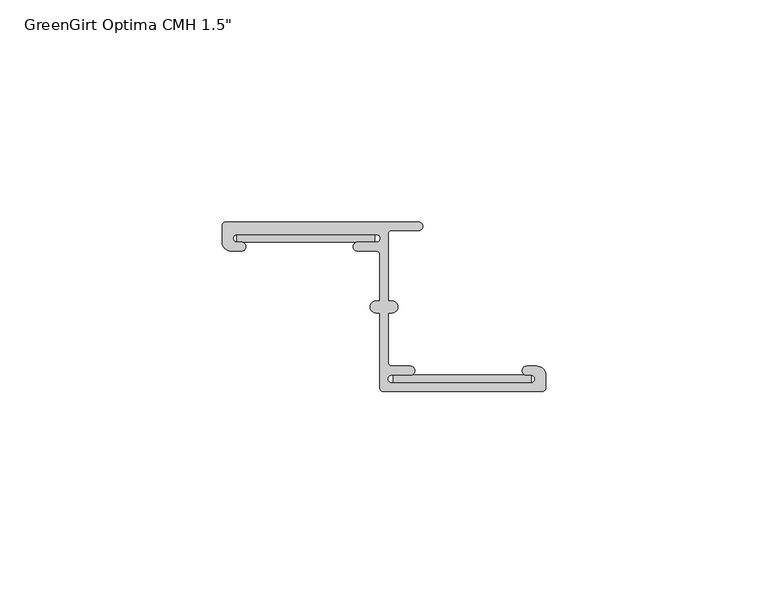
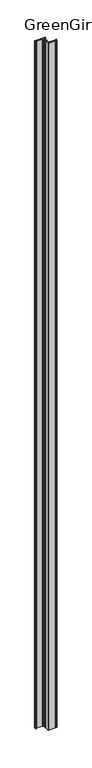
"""IFC4 building model written with IfcOpenShell, lengths in millimetres: fastener geometry."""

from ifc_helpers import new_model, si_unit, frame, origin, origin_with_axes, place, context, project, spatial, polyline, circle_curve, outline, extrude, source, transform, mapped, element, save
from ifc_brep_helpers import plane_surface, cylinder_surface, revolved_surface, advanced_brep


def fastener_47d68e06(model_context):
    return source(origin(), model_context, "Body", "SolidModel", [
        advanced_brep(
        [(54.102, -2.794, 3048.0), (85.471, -2.794, 3048.0), (85.471, -4.5212, 3048.0), (81.28, -4.5212, 3048.0), (81.28, -6.5532, 3048.0), (85.471, -6.5532, 3048.0), (86.233, -7.3152, 3048.0), (86.233, -17.7601563, 3048.0), (85.3845567, -17.7601563, 3048.0), (85.3845567, -20.4288947, 3048.0), (86.233, -20.4288947, 3048.0), (86.233, -37.3379766, 3048.0), (86.995, -38.0999766, 3048.0), (122.8513242, -38.1, 3048.0), (123.571, -37.3379766, 3048.0), (123.571, -34.4677766, 3048.0), (121.539, -32.4357766, 3048.0), (119.253, -32.4357766, 3048.0), (119.253, -34.4677766, 3048.0), (120.269, -34.4677766, 3048.0), (120.269, -36.1949766, 3048.0), (88.9, -36.1949766, 3048.0), (88.9, -34.4677766, 3048.0), (93.091, -34.4677766, 3048.0), (93.091, -32.4357766, 3048.0), (88.9, -32.4357766, 3048.0), (88.138, -31.6737766, 3048.0), (88.138, -20.4279799, 3048.0), (88.9869007, -20.4279799, 3048.0), (88.9869007, -17.7601563, 3048.0), (88.138, -17.7601563, 3048.0), (88.138, -2.667, 3048.0), (88.9, -1.905, 3048.0), (94.996, -1.905, 3048.0), (94.996, 0.0, 3048.0), (51.562, 0.0, 3048.0), (50.8, -0.762, 3048.0), (50.8, -4.5212, 3048.0), (52.832, -6.5532, 3048.0), (55.118, -6.5532, 3048.0), (55.118, -4.5212, 3048.0), (54.102, -4.5212, 3048.0), (54.102, -2.794, 0.0), (54.102, -4.5212, 0.0), (55.118, -4.5212, 0.0), (55.118, -6.5532, 0.0), (52.832, -6.5532, 0.0), (50.8, -4.5212, 0.0), (50.8, -0.762, 0.0), (51.562, 0.0, 0.0), (94.996, 0.0, 0.0), (94.996, -1.905, 0.0), (88.9, -1.905, 0.0), (88.138, -2.667, 0.0), (88.138, -17.7601563, 0.0), (88.9869007, -17.7601563, 0.0), (88.9869007, -20.4279799, 0.0), (88.138, -20.4279799, 0.0), (88.138, -31.6737766, 0.0), (88.9, -32.4357766, 0.0), (93.091, -32.4357766, 0.0), (93.091, -34.4677766, 0.0), (88.9, -34.4677766, 0.0), (88.9, -36.1949766, 0.0), (120.269, -36.1949766, 0.0), (120.269, -34.4677766, 0.0), (119.253, -34.4677766, 0.0), (119.253, -32.4357766, 0.0), (121.539, -32.4357766, 0.0), (123.571, -34.4677766, 0.0), (123.571, -37.3379766, 0.0), (122.809, -38.0999766, 0.0), (86.9676774, -38.1, 0.0), (86.233, -37.3379766, 0.0), (86.233, -20.4288947, 0.0), (85.3845567, -20.4288947, 0.0), (85.3845567, -17.7601563, 0.0), (86.233, -17.7601563, 0.0), (86.233, -7.3152, 0.0), (85.471, -6.5532, 0.0), (81.28, -6.5532, 0.0), (81.28, -4.5212, 0.0), (85.471, -4.5212, 0.0), (85.471, -2.794, 0.0)],
        [
            (0, 1),
            (1, 2, circle_curve(frame((85.471, -3.6576, 3048.0), z_axis=(0.0, 0.0, -1.0), x_axis=(1.0, 0.0, 0.0)), 0.8636)),
            (2, 3),
            (3, 4, circle_curve(frame((81.28, -5.5372, 3048.0), z_axis=(0.0, 0.0, 1.0), x_axis=(1.0, 0.0, 0.0)), 1.016)),
            (4, 5),
            (5, 6, circle_curve(frame((85.471, -7.3152, 3048.0), z_axis=(0.0, 0.0, -1.0), x_axis=(1.0, 0.0, 0.0)), 0.762)),
            (6, 7),
            (7, 8),
            (8, 9, circle_curve(frame((85.3845567, -19.0945255, 3048.0), z_axis=(0.0, 0.0, 1.0), x_axis=(1.0, 0.0, 0.0)), 1.3343692)),
            (9, 10),
            (10, 11),
            (11, 12, circle_curve(frame((86.995, -37.3379766, 3048.0), z_axis=(0.0, 0.0, 1.0), x_axis=(1.0, 0.0, 0.0)), 0.762)),
            (12, 13),
            (13, 14, circle_curve(frame((122.809, -37.3379766, 3048.0), z_axis=(0.0, 0.0, 1.0), x_axis=(1.0, 0.0, 0.0)), 0.762)),
            (14, 15),
            (15, 16, circle_curve(frame((121.539, -34.4677766, 3048.0), z_axis=(0.0, 0.0, 1.0), x_axis=(1.0, 0.0, 0.0)), 2.032)),
            (16, 17),
            (17, 18, circle_curve(frame((119.253, -33.4517766, 3048.0), z_axis=(0.0, 0.0, 1.0), x_axis=(1.0, 0.0, 0.0)), 1.016)),
            (18, 19),
            (19, 20, circle_curve(frame((120.269, -35.3313766, 3048.0), z_axis=(0.0, 0.0, -1.0), x_axis=(1.0, 0.0, 0.0)), 0.8636)),
            (20, 21),
            (21, 22, circle_curve(frame((88.9, -35.3313766, 3048.0), z_axis=(0.0, 0.0, -1.0), x_axis=(1.0, 0.0, 0.0)), 0.8636)),
            (22, 23),
            (23, 24, circle_curve(frame((93.091, -33.4517766, 3048.0), z_axis=(0.0, 0.0, 1.0), x_axis=(1.0, 0.0, 0.0)), 1.016)),
            (24, 25),
            (25, 26, circle_curve(frame((88.9, -31.6737766, 3048.0), z_axis=(0.0, 0.0, -1.0), x_axis=(1.0, 0.0, 0.0)), 0.762)),
            (26, 27),
            (27, 28),
            (28, 29, circle_curve(frame((88.9869007, -19.0940681, 3048.0), z_axis=(0.0, 0.0, 1.0), x_axis=(1.0, 0.0, 0.0)), 1.3339118)),
            (29, 30),
            (30, 31),
            (31, 32, circle_curve(frame((88.9, -2.667, 3048.0), z_axis=(0.0, 0.0, -1.0), x_axis=(1.0, 0.0, 0.0)), 0.762)),
            (32, 33),
            (33, 34, circle_curve(frame((94.996, -0.9525, 3048.0), z_axis=(0.0, 0.0, 1.0), x_axis=(1.0, 0.0, 0.0)), 0.9525)),
            (34, 35),
            (35, 36, circle_curve(frame((51.562, -0.762, 3048.0), z_axis=(0.0, 0.0, 1.0), x_axis=(1.0, 0.0, 0.0)), 0.762)),
            (36, 37),
            (37, 38, circle_curve(frame((52.832, -4.5212, 3048.0), z_axis=(0.0, 0.0, 1.0), x_axis=(1.0, 0.0, 0.0)), 2.032)),
            (38, 39),
            (39, 40, circle_curve(frame((55.118, -5.5372, 3048.0), z_axis=(0.0, 0.0, 1.0), x_axis=(1.0, 0.0, 0.0)), 1.016)),
            (40, 41),
            (41, 0, circle_curve(frame((54.102, -3.6576, 3048.0), z_axis=(0.0, 0.0, -1.0), x_axis=(1.0, 0.0, 0.0)), 0.8636)),
            (42, 43, circle_curve(frame((54.102, -3.6576, 0.0), z_axis=(0.0, 0.0, 1.0), x_axis=(1.0, 0.0, 0.0)), 0.8636)),
            (43, 44),
            (44, 45, circle_curve(frame((55.118, -5.5372, 0.0), z_axis=(0.0, 0.0, -1.0), x_axis=(1.0, 0.0, 0.0)), 1.016)),
            (45, 46),
            (46, 47, circle_curve(frame((52.832, -4.5212, 0.0), z_axis=(0.0, 0.0, -1.0), x_axis=(1.0, 0.0, 0.0)), 2.032)),
            (47, 48),
            (48, 49, circle_curve(frame((51.562, -0.762, 0.0), z_axis=(0.0, 0.0, -1.0), x_axis=(1.0, 0.0, 0.0)), 0.762)),
            (49, 50),
            (50, 51, circle_curve(frame((94.996, -0.9525, 0.0), z_axis=(0.0, 0.0, -1.0), x_axis=(1.0, 0.0, 0.0)), 0.9525)),
            (51, 52),
            (52, 53, circle_curve(frame((88.9, -2.667, 0.0), z_axis=(0.0, 0.0, 1.0), x_axis=(1.0, 0.0, 0.0)), 0.762)),
            (53, 54),
            (54, 55),
            (55, 56, circle_curve(frame((88.9869007, -19.0940681, 0.0), z_axis=(0.0, 0.0, -1.0), x_axis=(1.0, 0.0, 0.0)), 1.3339118)),
            (56, 57),
            (57, 58),
            (58, 59, circle_curve(frame((88.9, -31.6737766, 0.0), z_axis=(0.0, 0.0, 1.0), x_axis=(1.0, 0.0, 0.0)), 0.762)),
            (59, 60),
            (60, 61, circle_curve(frame((93.091, -33.4517766, 0.0), z_axis=(0.0, 0.0, -1.0), x_axis=(1.0, 0.0, 0.0)), 1.016)),
            (61, 62),
            (62, 63, circle_curve(frame((88.9, -35.3313766, 0.0), z_axis=(0.0, 0.0, 1.0), x_axis=(1.0, 0.0, 0.0)), 0.8636)),
            (63, 64),
            (64, 65, circle_curve(frame((120.269, -35.3313766, 0.0), z_axis=(0.0, 0.0, 1.0), x_axis=(1.0, 0.0, 0.0)), 0.8636)),
            (65, 66),
            (66, 67, circle_curve(frame((119.253, -33.4517766, 0.0), z_axis=(0.0, 0.0, -1.0), x_axis=(1.0, 0.0, 0.0)), 1.016)),
            (67, 68),
            (68, 69, circle_curve(frame((121.539, -34.4677766, 0.0), z_axis=(0.0, 0.0, -1.0), x_axis=(1.0, 0.0, 0.0)), 2.032)),
            (69, 70),
            (70, 71, circle_curve(frame((122.809, -37.3379766, 0.0), z_axis=(0.0, 0.0, -1.0), x_axis=(1.0, 0.0, 0.0)), 0.762)),
            (71, 72),
            (72, 73, circle_curve(frame((86.995, -37.3379766, 0.0), z_axis=(0.0, 0.0, -1.0), x_axis=(1.0, 0.0, 0.0)), 0.762)),
            (73, 74),
            (74, 75),
            (75, 76, circle_curve(frame((85.3845567, -19.0945255, 0.0), z_axis=(0.0, 0.0, -1.0), x_axis=(1.0, 0.0, 0.0)), 1.3343692)),
            (76, 77),
            (77, 78),
            (78, 79, circle_curve(frame((85.471, -7.3152, 0.0), z_axis=(0.0, 0.0, 1.0), x_axis=(1.0, 0.0, 0.0)), 0.762)),
            (79, 80),
            (80, 81, circle_curve(frame((81.28, -5.5372, 0.0), z_axis=(0.0, 0.0, -1.0), x_axis=(1.0, 0.0, 0.0)), 1.016)),
            (81, 82),
            (82, 83, circle_curve(frame((85.471, -3.6576, 0.0), z_axis=(0.0, 0.0, 1.0), x_axis=(1.0, 0.0, 0.0)), 0.8636)),
            (83, 42),
            (0, 42),
            (83, 1),
            (82, 2),
            (81, 3),
            (80, 4),
            (79, 5),
            (78, 6),
            (77, 7),
            (76, 8),
            (75, 9),
            (74, 10),
            (73, 11),
            (72, 12),
            (71, 13),
            (70, 14),
            (69, 15),
            (68, 16),
            (67, 17),
            (66, 18),
            (65, 19),
            (64, 20),
            (63, 21),
            (62, 22),
            (61, 23),
            (60, 24),
            (59, 25),
            (58, 26),
            (57, 27),
            (56, 28),
            (55, 29),
            (54, 30),
            (53, 31),
            (52, 32),
            (51, 33),
            (50, 34),
            (49, 35),
            (48, 36),
            (47, 37),
            (46, 38),
            (45, 39),
            (44, 40),
            (43, 41),
        ],
        [
            plane_surface(frame((85.471, -2.794, 3048.0), z_axis=(0.0, 0.0, 1.0), x_axis=(1.0, 0.0, 0.0))),
            plane_surface(frame((85.471, -2.794, 0.0), z_axis=(0.0, 0.0, -1.0), x_axis=(-1.0, 0.0, 0.0))),
            plane_surface(frame((54.102, -2.794, 3048.0), z_axis=(0.0, -1.0, 0.0), x_axis=(0.0, 0.0, -1.0))),
            revolved_surface(polyline([(86.33460000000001, -3.6576, 0.0), (86.33460000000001, -3.6576, 3048.0)]), (85.471, -3.6576, 0.0), (0.0, 0.0, -1.0)),
            plane_surface(frame((85.471, -4.5212, 3048.0), z_axis=(0.0, 1.0, 0.0), x_axis=(0.0, 0.0, -1.0))),
            cylinder_surface(frame((81.28, -5.5372, 0.0), z_axis=(0.0, 0.0, 1.0), x_axis=(1.0, 0.0, 0.0)), 1.016),
            plane_surface(frame((81.28, -6.5532, 3048.0), z_axis=(0.0, -1.0, 0.0), x_axis=(0.0, 0.0, -1.0))),
            revolved_surface(polyline([(86.233, -7.3152, 0.0), (86.233, -7.3152, 3048.0)]), (85.471, -7.3152, 0.0), (0.0, 0.0, -1.0)),
            plane_surface(frame((86.233, -7.3152, 3048.0), z_axis=(-1.0, 0.0, 0.0), x_axis=(0.0, 0.0, -1.0))),
            plane_surface(frame((86.233, -17.7601563, 3048.0), z_axis=(0.0, 1.0, 0.0), x_axis=(0.0, 0.0, -1.0))),
            cylinder_surface(frame((85.3845567, -19.0945255, 0.0), z_axis=(0.0, 0.0, 1.0), x_axis=(1.0, 0.0, 0.0)), 1.3343692),
            plane_surface(frame((85.3845567, -20.4288947, 3048.0), z_axis=(0.0, -1.0, 0.0), x_axis=(0.0, 0.0, -1.0))),
            plane_surface(frame((86.233, -20.4288947, 3048.0), z_axis=(-1.0, 0.0, 0.0), x_axis=(0.0, 0.0, -1.0))),
            cylinder_surface(frame((86.995, -37.3379766, 0.0), z_axis=(0.0, 0.0, 1.0), x_axis=(1.0, 0.0, 0.0)), 0.762),
            plane_surface(frame((86.9676774, -38.1, 3048.0), z_axis=(0.0, -1.0, 0.0), x_axis=(0.0, 0.0, -1.0))),
            cylinder_surface(frame((122.809, -37.3379766, 0.0), z_axis=(0.0, 0.0, 1.0), x_axis=(1.0, 0.0, 0.0)), 0.762),
            plane_surface(frame((123.571, -37.3379766, 3048.0), z_axis=(1.0, 1.3794275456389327e-12, 0.0), x_axis=(0.0, 0.0, -1.0))),
            cylinder_surface(frame((121.539, -34.4677766, 0.0), z_axis=(0.0, 0.0, 1.0), x_axis=(1.0, 0.0, 0.0)), 2.032),
            plane_surface(frame((121.539, -32.4357766, 3048.0), z_axis=(0.0, 1.0, 0.0), x_axis=(0.0, 0.0, -1.0))),
            cylinder_surface(frame((119.253, -33.4517766, 0.0), z_axis=(0.0, 0.0, 1.0), x_axis=(1.0, 0.0, 0.0)), 1.016),
            plane_surface(frame((119.253, -34.4677766, 3048.0), z_axis=(0.0, -1.0, 0.0), x_axis=(0.0, 0.0, -1.0))),
            revolved_surface(polyline([(121.13260000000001, -35.3313766, 0.0), (121.13260000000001, -35.3313766, 3048.0)]), (120.269, -35.3313766, 0.0), (0.0, 0.0, -1.0)),
            plane_surface(frame((120.269, -36.1949766, 3048.0), z_axis=(0.0, 1.0, 0.0), x_axis=(0.0, 0.0, -1.0))),
            revolved_surface(polyline([(89.76360000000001, -35.3313766, 0.0), (89.76360000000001, -35.3313766, 3048.0)]), (88.9, -35.3313766, 0.0), (0.0, 0.0, -1.0)),
            plane_surface(frame((88.9, -34.4677766, 3048.0), z_axis=(0.0, -1.0, 0.0), x_axis=(0.0, 0.0, -1.0))),
            cylinder_surface(frame((93.091, -33.4517766, 0.0), z_axis=(0.0, 0.0, 1.0), x_axis=(1.0, 0.0, 0.0)), 1.016),
            plane_surface(frame((93.091, -32.4357766, 3048.0), z_axis=(0.0, 1.0, 0.0), x_axis=(0.0, 0.0, -1.0))),
            revolved_surface(polyline([(89.662, -31.6737766, 0.0), (89.662, -31.6737766, 3048.0)]), (88.9, -31.6737766, 0.0), (0.0, 0.0, -1.0)),
            plane_surface(frame((88.138, -31.6737766, 3048.0), z_axis=(1.0, 0.0, 0.0), x_axis=(0.0, 0.0, -1.0))),
            plane_surface(frame((88.138, -20.4279799, 3048.0), z_axis=(0.0, -1.0, 0.0), x_axis=(0.0, 0.0, -1.0))),
            cylinder_surface(frame((88.9869007, -19.0940681, 0.0), z_axis=(0.0, 0.0, 1.0), x_axis=(1.0, 0.0, 0.0)), 1.3339118),
            plane_surface(frame((88.9869007, -17.7601563, 3048.0), z_axis=(0.0, 1.0, 0.0), x_axis=(0.0, 0.0, -1.0))),
            plane_surface(frame((88.138, -17.7601563, 3048.0), z_axis=(1.0, 0.0, 0.0), x_axis=(0.0, 0.0, -1.0))),
            revolved_surface(polyline([(89.662, -2.667, 0.0), (89.662, -2.667, 3048.0)]), (88.9, -2.667, 0.0), (0.0, 0.0, -1.0)),
            plane_surface(frame((88.9, -1.905, 3048.0), z_axis=(0.0, -1.0, 0.0), x_axis=(0.0, 0.0, -1.0))),
            cylinder_surface(frame((94.996, -0.9525, 0.0), z_axis=(0.0, 0.0, 1.0), x_axis=(1.0, 0.0, 0.0)), 0.9525),
            plane_surface(frame((94.996, 0.0, 3048.0), z_axis=(0.0, 1.0, 0.0), x_axis=(0.0, 0.0, -1.0))),
            cylinder_surface(frame((51.562, -0.762, 0.0), z_axis=(0.0, 0.0, 1.0), x_axis=(1.0, 0.0, 0.0)), 0.762),
            plane_surface(frame((50.8, -0.762, 3048.0), z_axis=(-1.0, 2.681638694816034e-11, 0.0), x_axis=(0.0, 0.0, -1.0))),
            cylinder_surface(frame((52.832, -4.5212, 0.0), z_axis=(0.0, 0.0, 1.0), x_axis=(1.0, 0.0, 0.0)), 2.032),
            plane_surface(frame((52.832, -6.5532, 3048.0), z_axis=(0.0, -1.0, 0.0), x_axis=(0.0, 0.0, -1.0))),
            cylinder_surface(frame((55.118, -5.5372, 0.0), z_axis=(0.0, 0.0, 1.0), x_axis=(1.0, 0.0, 0.0)), 1.016),
            plane_surface(frame((55.118, -4.5212, 3048.0), z_axis=(0.0, 1.0, 0.0), x_axis=(0.0, 0.0, -1.0))),
            revolved_surface(polyline([(54.965599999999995, -3.6576, 0.0), (54.965599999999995, -3.6576, 3048.0)]), (54.102, -3.6576, 0.0), (0.0, 0.0, -1.0)),
        ],
        [
            (0, [[1, 2, 3, 4, 5, 6, 7, 8, 9, 10, 11, 12, 13, 14, 15, 16, 17, 18, 19, 20, 21, 22, 23, 24, 25, 26, 27, 28, 29, 30, 31, 32, 33, 34, 35, 36, 37, 38, 39, 40, 41, 42]]),
            (1, [[43, 44, 45, 46, 47, 48, 49, 50, 51, 52, 53, 54, 55, 56, 57, 58, 59, 60, 61, 62, 63, 64, 65, 66, 67, 68, 69, 70, 71, 72, 73, 74, 75, 76, 77, 78, 79, 80, 81, 82, 83, 84]]),
            (2, [[-1, 85, -84, 86]]),
            (3, [[-2, -86, -83, 87]]),
            (4, [[-3, -87, -82, 88]]),
            (5, [[-4, -88, -81, 89]]),
            (6, [[-5, -89, -80, 90]]),
            (7, [[-6, -90, -79, 91]]),
            (8, [[-7, -91, -78, 92]]),
            (9, [[-8, -92, -77, 93]]),
            (10, [[-9, -93, -76, 94]]),
            (11, [[-10, -94, -75, 95]]),
            (12, [[-11, -95, -74, 96]]),
            (13, [[-12, -96, -73, 97]]),
            (14, [[-13, -97, -72, 98]]),
            (15, [[-14, -98, -71, 99]]),
            (16, [[-15, -99, -70, 100]]),
            (17, [[-16, -100, -69, 101]]),
            (18, [[-17, -101, -68, 102]]),
            (19, [[-18, -102, -67, 103]]),
            (20, [[-19, -103, -66, 104]]),
            (21, [[-20, -104, -65, 105]]),
            (22, [[-21, -105, -64, 106]]),
            (23, [[-22, -106, -63, 107]]),
            (24, [[-23, -107, -62, 108]]),
            (25, [[-24, -108, -61, 109]]),
            (26, [[-25, -109, -60, 110]]),
            (27, [[-26, -110, -59, 111]]),
            (28, [[-27, -111, -58, 112]]),
            (29, [[-28, -112, -57, 113]]),
            (30, [[-29, -113, -56, 114]]),
            (31, [[-30, -114, -55, 115]]),
            (32, [[-31, -115, -54, 116]]),
            (33, [[-32, -116, -53, 117]]),
            (34, [[-33, -117, -52, 118]]),
            (35, [[-34, -118, -51, 119]]),
            (36, [[-35, -119, -50, 120]]),
            (37, [[-36, -120, -49, 121]]),
            (38, [[-37, -121, -48, 122]]),
            (39, [[-38, -122, -47, 123]]),
            (40, [[-39, -123, -46, 124]]),
            (41, [[-40, -124, -45, 125]]),
            (42, [[-41, -125, -44, 126]]),
            (43, [[-42, -126, -43, -85]]),
        ],
    ),
        extrude(outline(polyline([(85.09, -2.794), (85.09, -4.5212), (54.102, -4.5212), (54.102, -2.794), (85.09, -2.794)])), origin_with_axes(), (0.0, 0.0, 1.0), 3048.0),
        extrude(outline(polyline([(120.269, -34.4677766), (120.269, -36.1949766), (89.281, -36.1949766), (89.281, -34.4677766), (120.269, -34.4677766)])), origin_with_axes(), (0.0, 0.0, 1.0), 3048.0),
    ])


if __name__ == "__main__":
    model = new_model("IFC4")
    model_context = context("Model", 3, world=origin())
    ifc_project = project(units=[si_unit("LENGTHUNIT", "METRE", prefix="MILLI")], contexts=[model_context])
    site = spatial("IfcSite", under=ifc_project)
    building = spatial("IfcBuilding", under=site)
    placement = place(None, origin())
    fastener_shape = fastener_47d68e06(model_context)
    element("IfcFastener", 1, ObjectType="Structural-Supporting-Components_Advanced-Architectural-Products_GreenGirt-Optima-CMH-System : GreenGirt Optima CMH 1.5\"", at=placement, inside=building, context=model_context, shape_type="MappedRepresentation", body=[
        mapped(fastener_shape, transform((0.0, 0.0, 0.0), x_axis=(1.0, 0.0, 0.0), y_axis=(0.0, 1.0, 0.0), z_axis=(0.0, 0.0, 1.0))),
    ])
    save(model, "model.ifc")
